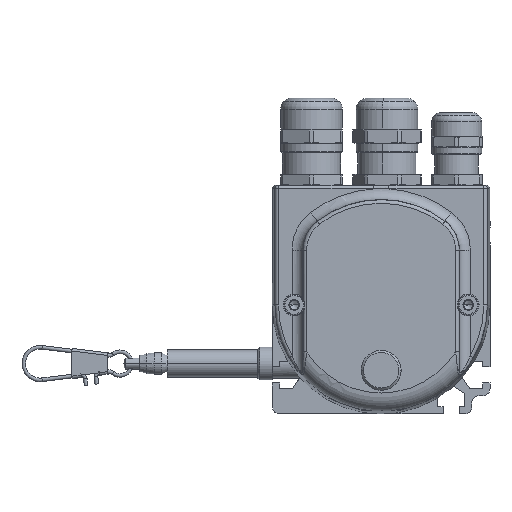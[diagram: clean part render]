
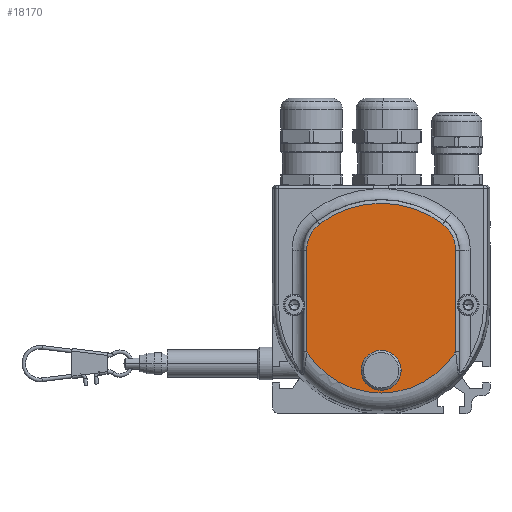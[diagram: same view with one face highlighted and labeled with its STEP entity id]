
A CAD part, left-side view. The second image highlights one B-rep face of the part: STEP entity #18170.
In plain terms, the highlighted planar face has unit normal (-1, 0, 0) as drawn and (0, 0, 1) by its records, which use the part's own axes.
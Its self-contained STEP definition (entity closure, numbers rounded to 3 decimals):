
#5313=DIRECTION('',(0.,-1.,0.));
#5314=VECTOR('',#5313,28.053);
#5315=CARTESIAN_POINT('',(20.534,12.928,70.75));
#5316=LINE('',#5315,#5314);
#5683=CARTESIAN_POINT('',(0.,18.,70.75));
#5684=DIRECTION('',(0.,0.,-1.));
#5685=DIRECTION('',(-1.,0.,0.));
#5686=AXIS2_PLACEMENT_3D('',#5683,#5684,#5685);
#5691=CARTESIAN_POINT('',(0.,18.,70.75));
#5692=DIRECTION('',(0.,0.,-1.));
#5693=DIRECTION('',(1.,0.,0.));
#5694=AXIS2_PLACEMENT_3D('',#5691,#5692,#5693);
#5699=CARTESIAN_POINT('',(11.5,-15.124,70.75));
#5700=DIRECTION('',(0.,0.,1.));
#5701=DIRECTION('',(0.605,-0.796,0.));
#5702=AXIS2_PLACEMENT_3D('',#5699,#5700,#5701);
#5707=CARTESIAN_POINT('',(0.,0.,70.75));
#5708=DIRECTION('',(0.,0.,1.));
#5709=DIRECTION('',(-0.605,-0.796,0.));
#5710=AXIS2_PLACEMENT_3D('',#5707,#5708,#5709);
#5715=CARTESIAN_POINT('',(-11.5,-15.124,70.75));
#5716=DIRECTION('',(0.,0.,1.));
#5717=DIRECTION('',(-1.,0.,0.));
#5718=AXIS2_PLACEMENT_3D('',#5715,#5716,#5717);
#5723=CARTESIAN_POINT('',(0.,0.,70.75));
#5724=DIRECTION('',(0.,0.,1.));
#5725=DIRECTION('',(0.846,0.533,0.));
#5726=AXIS2_PLACEMENT_3D('',#5723,#5724,#5725);
#5889=DIRECTION('',(0.,1.,0.));
#5890=VECTOR('',#5889,28.053);
#5891=CARTESIAN_POINT('',(-20.534,-15.124,70.75));
#5892=LINE('',#5891,#5890);
#13544=CARTESIAN_POINT('',(-20.534,-15.124,70.75));
#13546=VERTEX_POINT('',#13544);
#13550=CARTESIAN_POINT('',(-16.968,-22.316,70.75));
#13551=VERTEX_POINT('',#13550);
#13553=CARTESIAN_POINT('',(16.968,-22.316,70.75));
#13555=VERTEX_POINT('',#13553);
#13558=CARTESIAN_POINT('',(20.534,-15.124,70.75));
#13559=VERTEX_POINT('',#13558);
#13560=CARTESIAN_POINT('',(20.534,12.928,70.75));
#13561=VERTEX_POINT('',#13560);
#13562=CARTESIAN_POINT('',(-20.534,12.928,70.75));
#13563=VERTEX_POINT('',#13562);
#14302=CARTESIAN_POINT('',(-5.5,18.,70.75));
#14303=VERTEX_POINT('',#14302);
#14304=CARTESIAN_POINT('',(5.5,18.,70.75));
#14305=VERTEX_POINT('',#14304);
#18147=CARTESIAN_POINT('',(0.,0.,70.75));
#18148=DIRECTION('',(0.,0.,1.));
#18149=DIRECTION('',(1.,0.,0.));
#18150=AXIS2_PLACEMENT_3D('',#18147,#18148,#18149);
#18151=PLANE('',#18150);
#18152=ORIENTED_EDGE('',*,*,#17830,.T.);
#18154=ORIENTED_EDGE('',*,*,#18153,.F.);
#18156=ORIENTED_EDGE('',*,*,#18155,.F.);
#18158=ORIENTED_EDGE('',*,*,#18157,.F.);
#18160=ORIENTED_EDGE('',*,*,#18159,.T.);
#18161=ORIENTED_EDGE('',*,*,#18137,.F.);
#18162=EDGE_LOOP('',(#18152,#18154,#18156,#18158,#18160,#18161));
#18163=FACE_OUTER_BOUND('',#18162,.F.);
#18165=ORIENTED_EDGE('',*,*,#18164,.F.);
#18167=ORIENTED_EDGE('',*,*,#18166,.F.);
#18168=EDGE_LOOP('',(#18165,#18167));
#18169=FACE_BOUND('',#18168,.F.);
#5687=CIRCLE('',#5686,5.5);
#5695=CIRCLE('',#5694,5.5);
#5703=CIRCLE('',#5702,9.034);
#5711=CIRCLE('',#5710,28.034);
#5719=CIRCLE('',#5718,9.034);
#5727=CIRCLE('',#5726,24.265);
#17830=EDGE_CURVE('',#13561,#13559,#5316,.T.);
#18137=EDGE_CURVE('',#13561,#13563,#5727,.T.);
#18153=EDGE_CURVE('',#13555,#13559,#5703,.T.);
#18155=EDGE_CURVE('',#13551,#13555,#5711,.T.);
#18157=EDGE_CURVE('',#13546,#13551,#5719,.T.);
#18159=EDGE_CURVE('',#13546,#13563,#5892,.T.);
#18164=EDGE_CURVE('',#14303,#14305,#5687,.T.);
#18166=EDGE_CURVE('',#14305,#14303,#5695,.T.);
#18170=ADVANCED_FACE('',(#18163,#18169),#18151,.T.);
